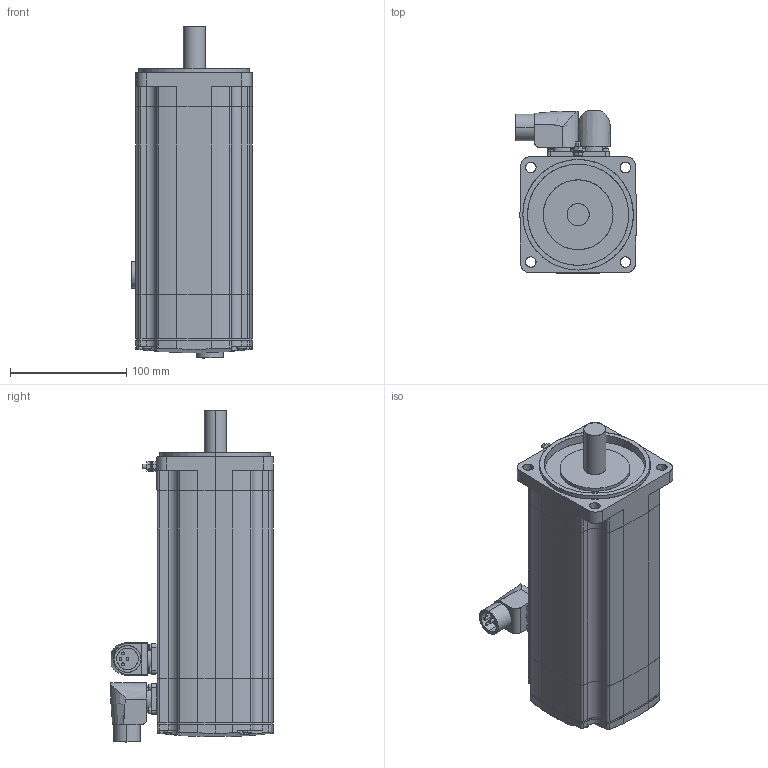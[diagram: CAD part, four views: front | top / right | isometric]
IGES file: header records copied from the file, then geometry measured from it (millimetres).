
Start section: SolidWorks IGES file using analytic representation for surfaces
Global section: file name: C:\PDM\SW-SAP\AA-IGES\SH31003x0xA2100.IGS; native system: SolidWorks 2010; preprocessor: SolidWorks 2010; author: SESA21951; date: 131129.100917; units: millimetre
Bounding box: 103.65 x 139.9 x 285.45 mm (x, y, z)
Surface area: 200823.1 mm2 (no closed solid volume)
Topology: 0 solids, 0 shells, 468 faces, 6770 edges, 6770 vertices
Faces by surface type: revolution 245, bspline 223
